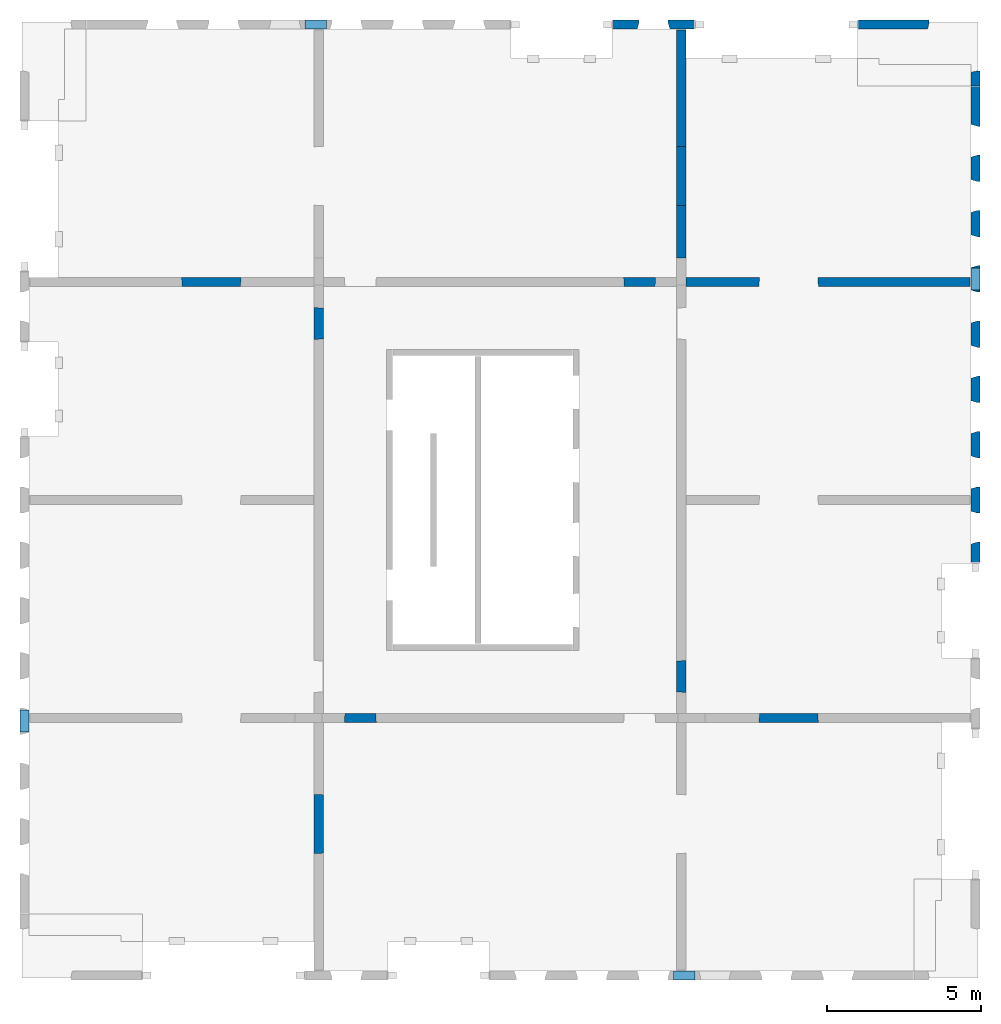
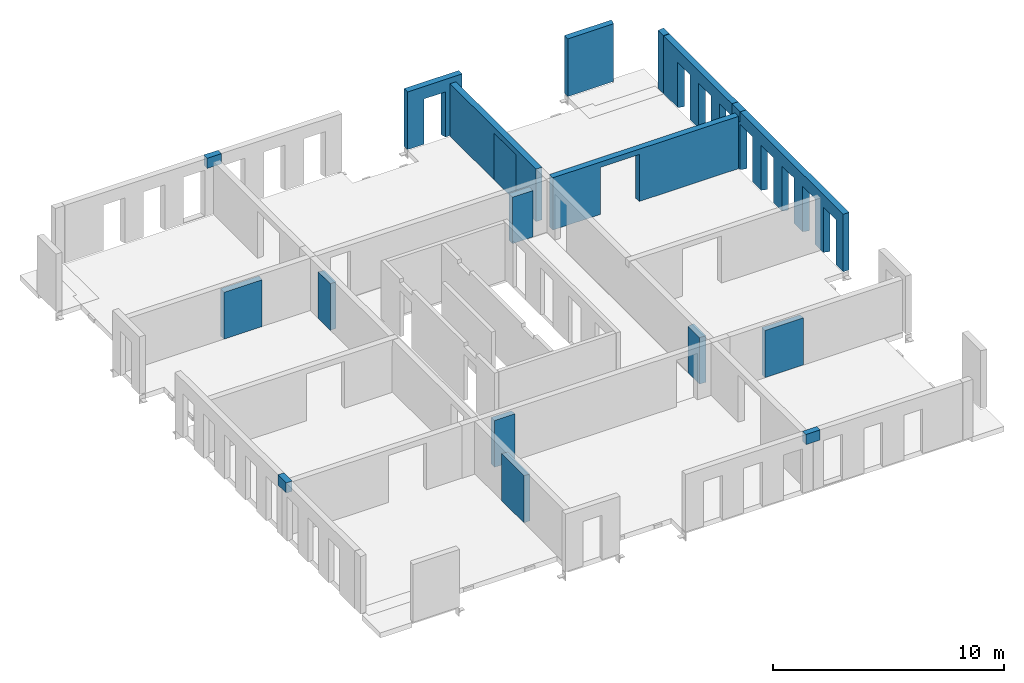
# One storey, part 4 of 5: 19 walls, 15 openings.
"""IFC2X3 building model written with IfcOpenShell, lengths in millimetres."""

from ifc_helpers import new_model, entity, si_unit, converted_unit, derived_unit, direction, frame, frame_2d, origin, place, context, subcontext, project, spatial, rectangle, extrude, faceted_brep, material, layer, layer_set, layer_usage, type_object, element, save


model = new_model("IFC2X3")

# Units and contexts
model_context = context("Model", 3, precision=0.01, world=origin(), true_north=direction((6.12303176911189e-17, 1.0)))
body_context = subcontext(model_context, "Body", "Model", "MODEL_VIEW")
ifc_project = project(units=[si_unit("LENGTHUNIT", "METRE", prefix="MILLI"), si_unit("AREAUNIT", "SQUARE_METRE"), si_unit("VOLUMEUNIT", "CUBIC_METRE"), converted_unit("PLANEANGLEUNIT", "DEGREE", entity("IfcRatioMeasure", 0.0174532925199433), si_unit("PLANEANGLEUNIT", "RADIAN"), dimensions=[0, 0, 0, 0, 0, 0, 0]), si_unit("MASSUNIT", "GRAM", prefix="KILO"), derived_unit("MASSDENSITYUNIT", [(si_unit("MASSUNIT", "GRAM", prefix="KILO"), 1), (si_unit("LENGTHUNIT", "METRE"), -3)]), si_unit("TIMEUNIT", "SECOND"), si_unit("FREQUENCYUNIT", "HERTZ"), si_unit("THERMODYNAMICTEMPERATUREUNIT", "DEGREE_CELSIUS"), derived_unit("THERMALTRANSMITTANCEUNIT", [(si_unit("MASSUNIT", "GRAM", prefix="KILO"), 1), (si_unit("THERMODYNAMICTEMPERATUREUNIT", "KELVIN"), -1), (si_unit("TIMEUNIT", "SECOND"), -3)]), derived_unit("VOLUMETRICFLOWRATEUNIT", [(si_unit("LENGTHUNIT", "METRE"), 3), (si_unit("TIMEUNIT", "SECOND"), -1)]), si_unit("ELECTRICCURRENTUNIT", "AMPERE"), si_unit("ELECTRICVOLTAGEUNIT", "VOLT"), si_unit("POWERUNIT", "WATT"), si_unit("FORCEUNIT", "NEWTON", prefix="KILO"), si_unit("ILLUMINANCEUNIT", "LUX"), si_unit("LUMINOUSFLUXUNIT", "LUMEN"), si_unit("LUMINOUSINTENSITYUNIT", "CANDELA"), derived_unit("USERDEFINED", [(si_unit("MASSUNIT", "GRAM", prefix="KILO"), -1), (si_unit("LENGTHUNIT", "METRE"), -2), (si_unit("TIMEUNIT", "SECOND"), 3), (si_unit("LUMINOUSFLUXUNIT", "LUMEN"), 1)]), derived_unit("LINEARVELOCITYUNIT", [(si_unit("LENGTHUNIT", "METRE"), 1), (si_unit("TIMEUNIT", "SECOND"), -1)]), si_unit("PRESSUREUNIT", "PASCAL"), derived_unit("USERDEFINED", [(si_unit("LENGTHUNIT", "METRE"), -2), (si_unit("MASSUNIT", "GRAM", prefix="KILO"), 1), (si_unit("TIMEUNIT", "SECOND"), -2)])], contexts=[model_context])

# Site, building, storey
site_placement = place(None, origin())
site = spatial("IfcSite", under=ifc_project, at=site_placement, Name="Default", CompositionType="ELEMENT")
building_placement = place(site_placement, origin())
building = spatial("IfcBuilding", under=site, at=building_placement, Name="niet gebruiken", CompositionType="ELEMENT")
storey_placement = place(building_placement, frame((0.0, 0.0, 155700.0)))
storey = spatial("IfcBuildingStorey", under=building, at=storey_placement, Name="50 vijftigste verdieping", CompositionType="ELEMENT", Elevation=155700.0)

# Wall, opening
ifc_material_1 = material(Name="NLRS_f2_beton prefab")
ifc_layer_1 = layer(ifc_material_1, 300.0)
ifc_layer_set_1 = layer_set([ifc_layer_1], Name="Basic Wall:NLRS_22.21_WA_beton prefab d=300_gen")
ifc_layer_usage_1 = layer_usage(ifc_layer_set_1, "AXIS2", "NEGATIVE", 150.0)
wall_type_1 = type_object("IfcWallType", Name="Basic Wall:NLRS_22.21_WA_beton prefab d=300_gen", PredefinedType="STANDARD", material=ifc_layer_set_1)
wall_1_placement = place(storey_placement, frame((157060.0, 24600.0, -60.0), z_axis=(0.0, 0.0, 1.0), x_axis=(-1.0, 0.0, 0.0)))
wall_1 = element("IfcWallStandardCase", 1, at=wall_1_placement, inside=storey, type_object=wall_type_1, material=ifc_layer_usage_1, Name="Basic Wall:NLRS_22.21_WA_beton prefab d=300_gen", ObjectType="Basic Wall:NLRS_22.21_WA_beton prefab d=300_gen", context=body_context, shape_type="SweptSolid", body=[
    extrude(rectangle(XDim=9260.00000000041, YDim=300.000000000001, at=frame_2d((4630.0000000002, -1.69109171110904e-12), x_axis=(-1.0, 0.0))), origin(), (0.0, 0.0, 1.0), 2760.0),
])
opening_1_placement = place(wall_1_placement, frame((6878.0, 150.0, -10.0)))
element("IfcOpeningElement", 2, at=opening_1_placement, cuts=wall_1, Name="Basic Wall:NLRS_22.21_WA_beton prefab d=300_gen", ObjectType="Opening", context=body_context, shape_type="Brep", body=[
    faceted_brep([(-18.0, -300.0, 2470.0), (-1918.0, -300.0, 2470.0), (-1918.0, -300.0, 0.0), (-18.0, -300.0, 0.0), (0.0, 0.0, 2488.0), (0.0, 0.0, 0.0), (-1936.0, 0.0, 0.0), (-1936.0, 0.0, 2488.0)], [[[0, 1, 2, 3]], [[4, 5, 6, 7]], [[4, 7, 1, 0]], [[7, 6, 2, 1]], [[6, 5, 3, 2]], [[5, 4, 0, 3]]]),
])

ifc_layer_usage_2 = layer_usage(ifc_layer_set_1, "AXIS2", "NEGATIVE", 150.0)
wall_2_placement = place(storey_placement, frame((147650.0, 25380.0, -70.0), z_axis=(0.0, 0.0, 1.0), x_axis=(0.0, 1.0, 0.0)))
wall_2 = element("IfcWallStandardCase", 3, at=wall_2_placement, inside=storey, type_object=wall_type_1, material=ifc_layer_usage_2, Name="Basic Wall:NLRS_22.21_WA_beton prefab d=300_gen", ObjectType="Basic Wall:NLRS_22.21_WA_beton prefab d=300_gen", context=body_context, shape_type="SweptSolid", body=[
    extrude(rectangle(XDim=7429.99999999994, YDim=300.000000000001, at=frame_2d((3714.99999999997, 7.14805992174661e-12), x_axis=(-1.0, 0.0))), origin(), (0.0, 0.0, 1.0), 2769.99999999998),
])
opening_2_placement = place(wall_2_placement, frame((1702.0, 150.0, 0.0)))
element("IfcOpeningElement", 4, at=opening_2_placement, cuts=wall_2, Name="Basic Wall:NLRS_22.21_WA_beton prefab d=300_gen", ObjectType="Opening", context=body_context, shape_type="Brep", body=[
    faceted_brep([(1918.0, 0.0, 2470.0), (1918.0, 0.0, 0.0), (18.0, 0.0, 0.0), (18.0, 0.0, 2470.0), (1936.0, -300.0, 2488.0), (0.0, -300.0, 2488.0), (0.0, -300.0, 0.0), (1936.0, -300.0, 0.0)], [[[0, 1, 2, 3]], [[4, 5, 6, 7]], [[4, 0, 3, 5]], [[5, 3, 2, 6]], [[6, 2, 1, 7]], [[7, 1, 0, 4]]]),
])

# Walls
ifc_material_2 = material(Name="NLRS_f2_beton ihwg")
ifc_layer_2 = layer(ifc_material_2, 300.0)
ifc_layer_set_2 = layer_set([ifc_layer_2], Name="Basic Wall:NLRS_21.21_WA_beton ihwg d=300_gen")
ifc_layer_usage_3 = layer_usage(ifc_layer_set_2, "AXIS2", "NEGATIVE", 150.0)
wall_type_2 = type_object("IfcWallType", Name="Basic Wall:NLRS_21.21_WA_beton ihwg d=300_gen", PredefinedType="STANDARD", material=ifc_layer_set_2)
wall_3_placement = place(storey_placement, frame((148105.0, 2020.0, 2455.0), z_axis=(0.0, 0.0, 1.0), x_axis=(-1.0, 0.0, 0.0)))
element("IfcWallStandardCase", 5, at=wall_3_placement, inside=storey, type_object=wall_type_2, material=ifc_layer_usage_3, Name="Basic Wall:NLRS_21.21_WA_beton ihwg d=300_gen", ObjectType="Basic Wall:NLRS_21.21_WA_beton ihwg d=300_gen", context=body_context, shape_type="SweptSolid", body=[
    extrude(rectangle(XDim=710.000000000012, YDim=300.0, at=frame_2d((355.000000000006, -1.4210854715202e-14), x_axis=(-1.0, 0.0))), origin(), (0.0, 0.0, 1.0), 535.0),
])
ifc_layer_usage_4 = layer_usage(ifc_layer_set_2, "AXIS2", "NEGATIVE", 150.0)
wall_4_placement = place(storey_placement, frame((135395.0, 32980.0, 2455.0)))
element("IfcWallStandardCase", 6, at=wall_4_placement, inside=storey, type_object=wall_type_2, material=ifc_layer_usage_4, Name="Basic Wall:NLRS_21.21_WA_beton ihwg d=300_gen", ObjectType="Basic Wall:NLRS_21.21_WA_beton ihwg d=300_gen", context=body_context, shape_type="SweptSolid", body=[
    extrude(rectangle(XDim=710.000000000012, YDim=300.000000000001, at=frame_2d((355.000000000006, 0.0), x_axis=(-1.0, 0.0))), origin(), (0.0, 0.0, 1.0), 535.0),
])
ifc_layer_usage_5 = layer_usage(ifc_layer_set_2, "AXIS2", "NEGATIVE", 150.0)
wall_5_placement = place(storey_placement, frame((157230.0, 25055.0, 2455.0), z_axis=(0.0, 0.0, 1.0), x_axis=(0.0, -1.0, 0.0)))
element("IfcWallStandardCase", 7, at=wall_5_placement, inside=storey, type_object=wall_type_2, material=ifc_layer_usage_5, Name="Basic Wall:NLRS_21.21_WA_beton ihwg d=300_gen", ObjectType="Basic Wall:NLRS_21.21_WA_beton ihwg d=300_gen", context=body_context, shape_type="SweptSolid", body=[
    extrude(rectangle(XDim=710.000000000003, YDim=300.000000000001, at=frame_2d((355.000000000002, 9.9475983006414e-13), x_axis=(-1.0, 0.0))), origin(), (0.0, 0.0, 1.0), 535.0),
])
ifc_layer_usage_6 = layer_usage(ifc_layer_set_2, "AXIS2", "NEGATIVE", 150.0)
wall_6_placement = place(storey_placement, frame((126270.0, 9945.0, 2455.0), z_axis=(0.0, 0.0, 1.0), x_axis=(0.0, 1.0, 0.0)))
element("IfcWallStandardCase", 8, at=wall_6_placement, inside=storey, type_object=wall_type_2, material=ifc_layer_usage_6, Name="Basic Wall:NLRS_21.21_WA_beton ihwg d=300_gen", ObjectType="Basic Wall:NLRS_21.21_WA_beton ihwg d=300_gen", context=body_context, shape_type="SweptSolid", body=[
    extrude(rectangle(XDim=710.000000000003, YDim=300.000000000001, at=frame_2d((355.000000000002, 0.0), x_axis=(-1.0, 0.0))), origin(), (0.0, 0.0, 1.0), 535.0),
])

# Wall, opening
ifc_layer_3 = layer(ifc_material_1, 300.0)
ifc_layer_set_3 = layer_set([ifc_layer_3], Name="Basic Wall:NLRS_21.21_WA_beton prefab d=300/320_gen")
ifc_layer_usage_7 = layer_usage(ifc_layer_set_3, "AXIS2", "NEGATIVE", 150.0)
wall_type_3 = type_object("IfcWallType", Name="Basic Wall:NLRS_21.21_WA_beton prefab d=300/320_gen", PredefinedType="STANDARD", material=ifc_layer_set_3)
wall_7_placement = place(storey_placement, frame((145390.0, 32980.0, -50.0)))
wall_7 = element("IfcWallStandardCase", 9, at=wall_7_placement, inside=storey, type_object=wall_type_3, material=ifc_layer_usage_7, Name="Basic Wall:NLRS_21.21_WA_beton prefab d=300/320_gen", ObjectType="Basic Wall:NLRS_21.21_WA_beton prefab d=300/320_gen", context=body_context, shape_type="SweptSolid", body=[
    extrude(rectangle(XDim=2720.00000000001, YDim=300.000000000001, at=frame_2d((1360.0, -4.54747350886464e-13), x_axis=(-1.0, 0.0))), origin(), (0.0, 0.0, 1.0), 3040.0),
])
opening_3_placement = place(wall_7_placement, frame((825.0, -150.0, -20.0)))
element("IfcOpeningElement", 10, at=opening_3_placement, cuts=wall_7, Name="Basic Wall:NLRS_21.21_WA_beton prefab d=300/320_gen", ObjectType="Opening", context=body_context, shape_type="Brep", body=[
    faceted_brep([(0.0, 0.0, 2405.0), (0.0, 0.0, 0.0), (1070.0, 0.0, 0.0), (1070.0, 0.0, 2405.0), (1005.0, 219.0, 2370.0), (65.0, 219.0, 2370.0), (1005.0, 219.0, 0.0), (65.0, 219.0, 0.0), (65.0, 300.0, 0.0), (1005.0, 300.0, 0.0), (65.0, 300.0, 2370.0), (1005.0, 300.0, 2370.0)], [[[0, 1, 2, 3]], [[3, 4, 5, 0]], [[2, 6, 4, 3]], [[1, 7, 8, 9, 6, 2]], [[0, 5, 7, 1]], [[10, 11, 9, 8]], [[10, 5, 4, 11]], [[11, 4, 6, 9]], [[8, 7, 5, 10]]]),
])

# Wall, openings
ifc_layer_usage_8 = layer_usage(ifc_layer_set_3, "AXIS2", "NEGATIVE", 150.0)
wall_8_placement = place(storey_placement, frame((157230.0, 30960.0, -50.0), z_axis=(0.0, 0.0, 1.0), x_axis=(0.0, -1.0, 0.0)))
wall_8 = element("IfcWallStandardCase", 11, at=wall_8_placement, inside=storey, type_object=wall_type_3, material=ifc_layer_usage_8, Name="Basic Wall:NLRS_21.21_WA_beton prefab d=300/320_gen", ObjectType="Basic Wall:NLRS_21.21_WA_beton prefab d=300/320_gen", context=body_context, shape_type="SweptSolid", body=[
    extrude(rectangle(XDim=6249.99999999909, YDim=300.000000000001, at=frame_2d((3124.99999999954, -8.61177795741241e-12), x_axis=(-1.0, 0.0))), origin(), (0.0, 0.0, 1.0), 3040.0),
])
opening_4_placement = place(wall_8_placement, frame((2295.0, -150.0, -20.0)))
element("IfcOpeningElement", 12, at=opening_4_placement, cuts=wall_8, Name="Basic Wall:NLRS_21.21_WA_beton prefab d=300/320_gen", ObjectType="Opening", context=body_context, shape_type="Brep", body=[
    faceted_brep([(-1070.0, 0.0, 2405.0), (-1070.0, 0.0, 0.0), (0.0, 0.0, 0.0), (0.0, 0.0, 2405.0), (-65.0, 219.0, 2370.0), (-1005.0, 219.0, 2370.0), (-65.0, 219.0, 0.0), (-1005.0, 219.0, 0.0), (-1005.0, 300.0, 0.0), (-65.0, 300.0, 0.0), (-1005.0, 300.0, 2370.0), (-65.0, 300.0, 2370.0)], [[[0, 1, 2, 3]], [[3, 4, 5, 0]], [[2, 6, 4, 3]], [[1, 7, 8, 9, 6, 2]], [[0, 5, 7, 1]], [[10, 11, 9, 8]], [[10, 5, 4, 11]], [[11, 4, 6, 9]], [[8, 7, 5, 10]]]),
])
opening_5_placement = place(wall_8_placement, frame((4095.0, -150.0, -20.0)))
element("IfcOpeningElement", 13, at=opening_5_placement, cuts=wall_8, Name="Basic Wall:NLRS_21.21_WA_beton prefab d=300/320_gen", ObjectType="Opening", context=body_context, shape_type="Brep", body=[
    faceted_brep([(-1070.0, 0.0, 2405.0), (-1070.0, 0.0, 0.0), (0.0, 0.0, 0.0), (0.0, 0.0, 2405.0), (-65.0, 219.0, 2370.0), (-1005.0, 219.0, 2370.0), (-65.0, 219.0, 0.0), (-1005.0, 219.0, 0.0), (-1005.0, 300.0, 0.0), (-65.0, 300.0, 0.0), (-1005.0, 300.0, 2370.0), (-65.0, 300.0, 2370.0)], [[[0, 1, 2, 3]], [[3, 4, 5, 0]], [[2, 6, 4, 3]], [[1, 7, 8, 9, 6, 2]], [[0, 5, 7, 1]], [[10, 11, 9, 8]], [[10, 5, 4, 11]], [[11, 4, 6, 9]], [[8, 7, 5, 10]]]),
])
opening_6_placement = place(wall_8_placement, frame((5895.0, -150.0, -20.0)))
element("IfcOpeningElement", 14, at=opening_6_placement, cuts=wall_8, Name="Basic Wall:NLRS_21.21_WA_beton prefab d=300/320_gen", ObjectType="Opening", context=body_context, shape_type="Brep", body=[
    faceted_brep([(-1070.0, 0.0, 2405.0), (-1070.0, 0.0, 0.0), (0.0, 0.0, 0.0), (0.0, 0.0, 2405.0), (-65.0, 219.0, 2370.0), (-1005.0, 219.0, 2370.0), (-65.0, 219.0, 0.0), (-1005.0, 219.0, 0.0), (-1005.0, 300.0, 0.0), (-65.0, 300.0, 0.0), (-1005.0, 300.0, 2370.0), (-65.0, 300.0, 2370.0)], [[[0, 1, 2, 3]], [[3, 4, 5, 0]], [[2, 6, 4, 3]], [[1, 7, 8, 9, 6, 2]], [[0, 5, 7, 1]], [[10, 11, 9, 8]], [[10, 5, 4, 11]], [[11, 4, 6, 9]], [[8, 7, 5, 10]]]),
])
opening_7_placement = place(wall_8_placement, origin())
element("IfcOpeningElement", 15, at=opening_7_placement, cuts=wall_8, Name="Basic Wall:NLRS_21.21_WA_beton prefab d=300/320_gen", ObjectType="Opening", context=body_context, shape_type="SweptSolid", body=[
    extrude(rectangle(XDim=534.99999999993, YDim=344.999999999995, at=frame_2d((0.0, -2.17426077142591e-12), x_axis=(1.0, 0.0))), frame((6077.49999999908, 150.0, 2772.50000000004), z_axis=(0.0, -1.0, 0.0), x_axis=(0.0, 0.0, 1.0)), (0.0, 0.0, 1.0), 300.0),
])

# Wall, opening
ifc_layer_usage_9 = layer_usage(ifc_layer_set_3, "AXIS2", "NEGATIVE", 150.0)
wall_9_placement = place(storey_placement, frame((153390.0, 32980.0, -50.0)))
wall_9 = element("IfcWallStandardCase", 16, at=wall_9_placement, inside=storey, type_object=wall_type_3, material=ifc_layer_usage_9, Name="Basic Wall:NLRS_21.21_WA_beton prefab d=300/320_gen", ObjectType="Basic Wall:NLRS_21.21_WA_beton prefab d=300/320_gen", context=body_context, shape_type="SweptSolid", body=[
    extrude(rectangle(XDim=2330.00000000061, YDim=300.000000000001, at=frame_2d((1165.00000000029, -1.29318777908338e-12), x_axis=(-1.0, 0.0))), origin(), (0.0, 0.0, 1.0), 3040.0),
])
opening_8_placement = place(wall_9_placement, frame((2265.0, -250.0, 0.0)))
element("IfcOpeningElement", 17, at=opening_8_placement, cuts=wall_9, Name="Basic Wall:NLRS_21.21_WA_beton prefab d=300/320_gen", ObjectType="Opening", context=body_context, shape_type="Brep", body=[
    faceted_brep([(65.0, 0.0, 3040.0), (65.0, 319.0, 3040.0), (0.0, 0.0, 3040.0), (65.0, 0.0, 0.0), (0.0, 0.0, 0.0), (65.0, 319.0, 0.0)], [[[0, 1, 2]], [[3, 4, 5]], [[2, 4, 3, 0]], [[0, 3, 5, 1]], [[1, 5, 4, 2]]]),
])

ifc_layer_usage_10 = layer_usage(ifc_layer_set_3, "AXIS2", "NEGATIVE", 150.0)
wall_10_placement = place(storey_placement, frame((157230.0, 31470.0, -50.0), z_axis=(0.0, 0.0, 1.0), x_axis=(0.0, -1.0, 0.0)))
wall_10 = element("IfcWallStandardCase", 18, at=wall_10_placement, inside=storey, type_object=wall_type_3, material=ifc_layer_usage_10, Name="Basic Wall:NLRS_21.21_WA_beton prefab d=300/320_gen", ObjectType="Basic Wall:NLRS_21.21_WA_beton prefab d=300/320_gen", context=body_context, shape_type="SweptSolid", body=[
    extrude(rectangle(XDim=489.999999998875, YDim=300.000000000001, at=frame_2d((244.999999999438, -7.8159700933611e-13), x_axis=(-1.0, 0.0))), origin(), (0.0, 0.0, 1.0), 3040.0),
])
opening_9_placement = place(wall_10_placement, frame((65.0, -250.0, 0.0)))
element("IfcOpeningElement", 19, at=opening_9_placement, cuts=wall_10, Name="Basic Wall:NLRS_21.21_WA_beton prefab d=300/320_gen", ObjectType="Opening", context=body_context, shape_type="Brep", body=[
    faceted_brep([(-65.0, 0.0, 3040.0), (0.0, 0.0, 3040.0), (-65.0, 319.0, 3040.0), (-65.0, 0.0, 0.0), (-65.0, 319.0, 0.0), (0.0, 0.0, 0.0)], [[[0, 1, 2]], [[3, 4, 5]], [[1, 0, 3, 5]], [[0, 2, 4, 3]], [[2, 1, 5, 4]]]),
])

# Wall, openings
ifc_layer_usage_11 = layer_usage(ifc_layer_set_3, "AXIS2", "NEGATIVE", 150.0)
wall_11_placement = place(storey_placement, frame((157230.0, 24690.0, -50.0), z_axis=(0.0, 0.0, 1.0), x_axis=(0.0, -1.0, 0.0)))
wall_11 = element("IfcWallStandardCase", 20, at=wall_11_placement, inside=storey, type_object=wall_type_3, material=ifc_layer_usage_11, Name="Basic Wall:NLRS_21.21_WA_beton prefab d=300/320_gen", ObjectType="Basic Wall:NLRS_21.21_WA_beton prefab d=300/320_gen", context=body_context, shape_type="SweptSolid", body=[
    extrude(rectangle(XDim=9250.00000000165, YDim=300.000000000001, at=frame_2d((4625.00000000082, -4.43378667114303e-12), x_axis=(-1.0, 0.0))), origin(), (0.0, 0.0, 1.0), 3040.0),
])
opening_10_placement = place(wall_11_placement, frame((8625.0, -150.0, -20.0)))
element("IfcOpeningElement", 21, at=opening_10_placement, cuts=wall_11, Name="Basic Wall:NLRS_21.21_WA_beton prefab d=300/320_gen", ObjectType="Opening", context=body_context, shape_type="Brep", body=[
    faceted_brep([(-1070.0, 0.0, 2405.0), (-1070.0, 0.0, 0.0), (0.0, 0.0, 0.0), (0.0, 0.0, 2405.0), (-65.0, 219.0, 2370.0), (-1005.0, 219.0, 2370.0), (-65.0, 219.0, 0.0), (-1005.0, 219.0, 0.0), (-1005.0, 300.0, 0.0), (-65.0, 300.0, 0.0), (-1005.0, 300.0, 2370.0), (-65.0, 300.0, 2370.0)], [[[0, 1, 2, 3]], [[3, 4, 5, 0]], [[2, 6, 4, 3]], [[1, 7, 8, 9, 6, 2]], [[0, 5, 7, 1]], [[10, 11, 9, 8]], [[10, 5, 4, 11]], [[11, 4, 6, 9]], [[8, 7, 5, 10]]]),
])
opening_11_placement = place(wall_11_placement, frame((5025.0, -150.0, -20.0)))
element("IfcOpeningElement", 22, at=opening_11_placement, cuts=wall_11, Name="Basic Wall:NLRS_21.21_WA_beton prefab d=300/320_gen", ObjectType="Opening", context=body_context, shape_type="Brep", body=[
    faceted_brep([(-1070.0, 0.0, 2405.0), (-1070.0, 0.0, 0.0), (0.0, 0.0, 0.0), (0.0, 0.0, 2405.0), (-65.0, 219.0, 2370.0), (-1005.0, 219.0, 2370.0), (-65.0, 219.0, 0.0), (-1005.0, 219.0, 0.0), (-1005.0, 300.0, 0.0), (-65.0, 300.0, 0.0), (-1005.0, 300.0, 2370.0), (-65.0, 300.0, 2370.0)], [[[0, 1, 2, 3]], [[3, 4, 5, 0]], [[2, 6, 4, 3]], [[1, 7, 8, 9, 6, 2]], [[0, 5, 7, 1]], [[10, 11, 9, 8]], [[10, 5, 4, 11]], [[11, 4, 6, 9]], [[8, 7, 5, 10]]]),
])
opening_12_placement = place(wall_11_placement, frame((3225.0, -150.0, -20.0)))
element("IfcOpeningElement", 23, at=opening_12_placement, cuts=wall_11, Name="Basic Wall:NLRS_21.21_WA_beton prefab d=300/320_gen", ObjectType="Opening", context=body_context, shape_type="Brep", body=[
    faceted_brep([(-1070.0, 0.0, 2405.0), (-1070.0, 0.0, 0.0), (0.0, 0.0, 0.0), (0.0, 0.0, 2405.0), (-65.0, 219.0, 2370.0), (-1005.0, 219.0, 2370.0), (-65.0, 219.0, 0.0), (-1005.0, 219.0, 0.0), (-1005.0, 300.0, 0.0), (-65.0, 300.0, 0.0), (-1005.0, 300.0, 2370.0), (-65.0, 300.0, 2370.0)], [[[0, 1, 2, 3]], [[3, 4, 5, 0]], [[2, 6, 4, 3]], [[1, 7, 8, 9, 6, 2]], [[0, 5, 7, 1]], [[10, 11, 9, 8]], [[10, 5, 4, 11]], [[11, 4, 6, 9]], [[8, 7, 5, 10]]]),
])
opening_13_placement = place(wall_11_placement, frame((6825.0, -150.0, -20.0)))
element("IfcOpeningElement", 24, at=opening_13_placement, cuts=wall_11, Name="Basic Wall:NLRS_21.21_WA_beton prefab d=300/320_gen", ObjectType="Opening", context=body_context, shape_type="Brep", body=[
    faceted_brep([(-1070.0, 0.0, 2405.0), (-1070.0, 0.0, 0.0), (0.0, 0.0, 0.0), (0.0, 0.0, 2405.0), (-65.0, 219.0, 2370.0), (-1005.0, 219.0, 2370.0), (-65.0, 219.0, 0.0), (-1005.0, 219.0, 0.0), (-1005.0, 300.0, 0.0), (-65.0, 300.0, 0.0), (-1005.0, 300.0, 2370.0), (-65.0, 300.0, 2370.0)], [[[0, 1, 2, 3]], [[3, 4, 5, 0]], [[2, 6, 4, 3]], [[1, 7, 8, 9, 6, 2]], [[0, 5, 7, 1]], [[10, 11, 9, 8]], [[10, 5, 4, 11]], [[11, 4, 6, 9]], [[8, 7, 5, 10]]]),
])
opening_14_placement = place(wall_11_placement, frame((1425.0, -150.0, -20.0)))
element("IfcOpeningElement", 25, at=opening_14_placement, cuts=wall_11, Name="Basic Wall:NLRS_21.21_WA_beton prefab d=300/320_gen", ObjectType="Opening", context=body_context, shape_type="Brep", body=[
    faceted_brep([(0.0, 0.0, 2405.0), (-1070.0, 0.0, 2405.0), (-1070.0, 0.0, 0.0), (0.0, 0.0, 0.0), (-65.0, 219.0, 2370.0), (-1005.0, 219.0, 2370.0), (-1005.0, 219.0, 0.0), (-1005.0, 300.0, 0.0), (-65.0, 300.0, 0.0), (-65.0, 219.0, 0.0), (-65.0, 300.0, 2370.0), (-1005.0, 300.0, 2370.0)], [[[0, 1, 2, 3]], [[1, 0, 4, 5]], [[2, 1, 5, 6]], [[3, 2, 6, 7, 8, 9]], [[0, 3, 9, 4]], [[10, 8, 7, 11]], [[10, 11, 5, 4]], [[11, 7, 6, 5]], [[8, 10, 4, 9]]]),
])
opening_15_placement = place(wall_11_placement, origin())
element("IfcOpeningElement", 26, at=opening_15_placement, cuts=wall_11, Name="Basic Wall:NLRS_21.21_WA_beton prefab d=300/320_gen", ObjectType="Opening", context=body_context, shape_type="SweptSolid", body=[
    extrude(rectangle(XDim=535.0, YDim=345.000000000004, at=frame_2d((-2.1600499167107e-12, 0.0), x_axis=(0.0, 1.0))), frame((172.5, 150.0, 2772.5), z_axis=(0.0, -1.0, 0.0), x_axis=(-1.0, 0.0, 0.0)), (0.0, 0.0, 1.0), 300.0),
])

# Walls
ifc_material_3 = material(Name="NLRS_f2_beton prefab dichtstorten")
wall_type_4 = type_object("IfcWallType", Name="Parametric Wall:NLRS_22.21_WA_beton prefab d=500 1900x2470_gen", PredefinedType="NOTDEFINED", material=ifc_material_3)
wall_12_placement = place(storey_placement, frame((135700.0, 5982.0, -70.0), z_axis=(0.0, 0.0, 1.0), x_axis=(0.0, 1.0, 0.0)))
element("IfcWall", 27, at=wall_12_placement, inside=storey, type_object=wall_type_4, material=ifc_material_3, Name="Parametric Wall:NLRS_22.21_WA_beton prefab d=500 1900x2470_gen", ObjectType="Parametric Wall:NLRS_22.21_WA_beton prefab d=500 1900x2470_gen", context=body_context, shape_type="Brep", body=[
    faceted_brep([(1936.0, 0.0, 2488.0), (1936.0, 0.0, 10.0), (1936.0, 0.0, 0.0), (0.0, 0.0, 0.0), (0.0, 0.0, 10.0), (0.0, 0.0, 2488.0), (1918.0, -300.0, 2470.0), (18.0, -300.0, 2470.0), (18.0, -300.0, 10.0), (18.0, -300.0, 0.0), (1918.0, -300.0, 0.0), (1918.0, -300.0, 10.0)], [[[0, 1, 2, 3, 4, 5]], [[6, 7, 8, 9, 10, 11]], [[6, 11, 10, 2, 1, 0]], [[10, 9, 3, 2]], [[9, 8, 7, 5, 4, 3]], [[7, 6, 0, 5]]]),
])
wall_13_placement = place(storey_placement, frame((147500.0, 27082.0, -70.0), z_axis=(0.0, 0.0, 1.0), x_axis=(0.0, 1.0, 0.0)))
element("IfcWall", 28, at=wall_13_placement, inside=storey, type_object=wall_type_4, material=ifc_material_3, Name="Parametric Wall:NLRS_22.21_WA_beton prefab d=500 1900x2470_gen", ObjectType="Parametric Wall:NLRS_22.21_WA_beton prefab d=500 1900x2470_gen", context=body_context, shape_type="Brep", body=[
    faceted_brep([(0.0, -300.0, 2488.0), (0.0, -300.0, 0.0), (1936.0, -300.0, 0.0), (1936.0, -300.0, 2488.0), (18.0, 0.0, 2470.0), (1918.0, 0.0, 2470.0), (1918.0, 0.0, 0.0), (18.0, 0.0, 0.0)], [[[0, 1, 2, 3]], [[4, 5, 6, 7]], [[4, 7, 1, 0]], [[7, 6, 2, 1]], [[6, 5, 3, 2]], [[5, 4, 0, 3]]]),
])
wall_14_placement = place(storey_placement, frame((131382.0, 24450.0, -70.0)))
element("IfcWall", 29, at=wall_14_placement, inside=storey, type_object=wall_type_4, material=ifc_material_3, Name="Parametric Wall:NLRS_22.21_WA_beton prefab d=500 1900x2470_gen", ObjectType="Parametric Wall:NLRS_22.21_WA_beton prefab d=500 1900x2470_gen", context=body_context, shape_type="Brep", body=[
    faceted_brep([(1936.0, 300.0, 2488.0), (1936.0, 300.0, 10.0), (1936.0, 300.0, 0.0), (0.0, 300.0, 0.0), (0.0, 300.0, 10.0), (0.0, 300.0, 2488.0), (1918.0, 0.0, 2470.0), (18.0, 0.0, 2470.0), (18.0, 0.0, 10.0), (18.0, 0.0, 0.0), (1918.0, 0.0, 0.0), (1918.0, 0.0, 10.0)], [[[0, 1, 2, 3, 4, 5]], [[6, 7, 8, 9, 10, 11]], [[6, 11, 10, 2, 1, 0]], [[10, 9, 3, 2]], [[9, 8, 7, 5, 4, 3]], [[7, 6, 0, 5]]]),
])
wall_15_placement = place(storey_placement, frame((150182.0, 10250.0, -70.0)))
element("IfcWall", 30, at=wall_15_placement, inside=storey, type_object=wall_type_4, material=ifc_material_3, Name="Parametric Wall:NLRS_22.21_WA_beton prefab d=500 1900x2470_gen", ObjectType="Parametric Wall:NLRS_22.21_WA_beton prefab d=500 1900x2470_gen", context=body_context, shape_type="Brep", body=[
    faceted_brep([(0.0, 0.0, 2488.0), (0.0, 0.0, 0.0), (1936.0, 0.0, 0.0), (1936.0, 0.0, 2488.0), (18.0, 300.0, 2470.0), (1918.0, 300.0, 2470.0), (1918.0, 300.0, 0.0), (18.0, 300.0, 0.0)], [[[0, 1, 2, 3]], [[4, 5, 6, 7]], [[4, 7, 1, 0]], [[7, 6, 2, 1]], [[6, 5, 3, 2]], [[5, 4, 0, 3]]]),
])
wall_type_5 = type_object("IfcWallType", Name="Parametric Wall:NLRS_22.21_WA_beton prefab d=500 1006x2448_gen", PredefinedType="NOTDEFINED", material=ifc_material_3)
wall_16_placement = place(storey_placement, frame((136682.0, 10250.0, -70.0)))
element("IfcWall", 31, at=wall_16_placement, inside=storey, type_object=wall_type_5, material=ifc_material_3, Name="Parametric Wall:NLRS_22.21_WA_beton prefab d=500 1006x2448_gen", ObjectType="Parametric Wall:NLRS_22.21_WA_beton prefab d=500 1006x2448_gen", context=body_context, shape_type="Brep", body=[
    faceted_brep([(0.0, 0.0, 2466.0), (0.0, 0.0, 10.0), (0.0, 0.0, 0.0), (1042.0, 0.0, 0.0), (1042.0, 0.0, 10.0), (1042.0, 0.0, 2466.0), (18.0, 300.0, 2448.0), (1024.0, 300.0, 2448.0), (1024.0, 300.0, 10.0), (1024.0, 300.0, 0.0), (18.0, 300.0, 0.0), (18.0, 300.0, 10.0)], [[[0, 1, 2, 3, 4, 5]], [[6, 7, 8, 9, 10, 11]], [[6, 11, 10, 2, 1, 0]], [[10, 9, 3, 2]], [[9, 8, 7, 5, 4, 3]], [[7, 6, 0, 5]]]),
])
wall_17_placement = place(storey_placement, frame((145776.0, 24450.0, -70.0)))
element("IfcWall", 32, at=wall_17_placement, inside=storey, type_object=wall_type_5, material=ifc_material_3, Name="Parametric Wall:NLRS_22.21_WA_beton prefab d=500 1006x2448_gen", ObjectType="Parametric Wall:NLRS_22.21_WA_beton prefab d=500 1006x2448_gen", context=body_context, shape_type="Brep", body=[
    faceted_brep([(1042.0, 300.0, 2466.0), (1042.0, 300.0, 10.0), (1042.0, 300.0, 0.0), (0.0, 300.0, 0.0), (0.0, 300.0, 10.0), (0.0, 300.0, 2466.0), (1024.0, 0.0, 2448.0), (18.0, 0.0, 2448.0), (18.0, 0.0, 10.0), (18.0, 0.0, 0.0), (1024.0, 0.0, 0.0), (1024.0, 0.0, 10.0)], [[[0, 1, 2, 3, 4, 5]], [[6, 7, 8, 9, 10, 11]], [[6, 11, 10, 2, 1, 0]], [[10, 9, 3, 2]], [[9, 8, 7, 5, 4, 3]], [[7, 6, 0, 5]]]),
])
wall_18_placement = place(storey_placement, frame((135700.0, 22726.0, -70.0), z_axis=(0.0, 0.0, 1.0), x_axis=(0.0, 1.0, 0.0)))
element("IfcWall", 33, at=wall_18_placement, inside=storey, type_object=wall_type_5, material=ifc_material_3, Name="Parametric Wall:NLRS_22.21_WA_beton prefab d=500 1006x2448_gen", ObjectType="Parametric Wall:NLRS_22.21_WA_beton prefab d=500 1006x2448_gen", context=body_context, shape_type="Brep", body=[
    faceted_brep([(1042.0, 0.0, 2466.0), (1042.0, 0.0, 10.0), (1042.0, 0.0, 0.0), (0.0, 0.0, 0.0), (0.0, 0.0, 10.0), (0.0, 0.0, 2466.0), (1024.0, -300.0, 2448.0), (18.0, -300.0, 2448.0), (18.0, -300.0, 10.0), (18.0, -300.0, 0.0), (1024.0, -300.0, 0.0), (1024.0, -300.0, 10.0)], [[[0, 1, 2, 3, 4, 5]], [[6, 7, 8, 9, 10, 11]], [[6, 11, 10, 2, 1, 0]], [[10, 9, 3, 2]], [[9, 8, 7, 5, 4, 3]], [[7, 6, 0, 5]]]),
])
wall_19_placement = place(storey_placement, frame((147500.0, 11232.0, -70.0), z_axis=(0.0, 0.0, 1.0), x_axis=(0.0, 1.0, 0.0)))
element("IfcWall", 34, at=wall_19_placement, inside=storey, type_object=wall_type_5, material=ifc_material_3, Name="Parametric Wall:NLRS_22.21_WA_beton prefab d=500 1006x2448_gen", ObjectType="Parametric Wall:NLRS_22.21_WA_beton prefab d=500 1006x2448_gen", context=body_context, shape_type="Brep", body=[
    faceted_brep([(0.0, -300.0, 2466.0), (0.0, -300.0, 10.0), (0.0, -300.0, 0.0), (1042.0, -300.0, 0.0), (1042.0, -300.0, 10.0), (1042.0, -300.0, 2466.0), (18.0, 0.0, 2448.0), (1024.0, 0.0, 2448.0), (1024.0, 0.0, 10.0), (1024.0, 0.0, 0.0), (18.0, 0.0, 0.0), (18.0, 0.0, 10.0)], [[[0, 1, 2, 3, 4, 5]], [[6, 7, 8, 9, 10, 11]], [[6, 11, 10, 2, 1, 0]], [[10, 9, 3, 2]], [[9, 8, 7, 5, 4, 3]], [[7, 6, 0, 5]]]),
])

save(model, "model.ifc")
